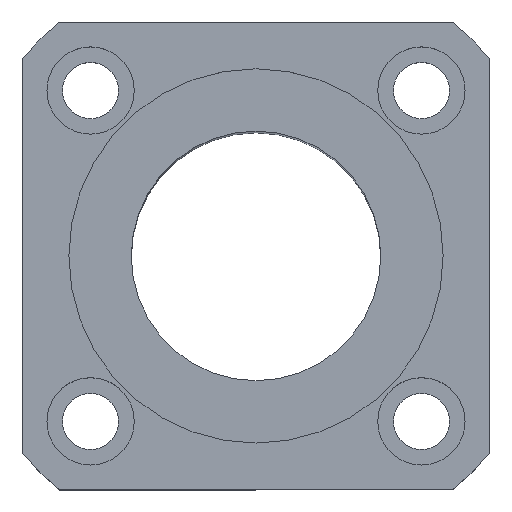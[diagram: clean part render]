
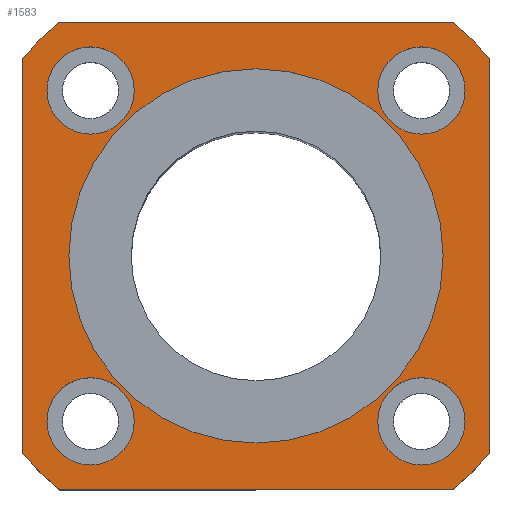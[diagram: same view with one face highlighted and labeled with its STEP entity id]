
A CAD part, top view. The second image highlights one B-rep face of the part: STEP entity #1583.
In plain terms, the highlighted planar face has unit normal (0, 0, 1).
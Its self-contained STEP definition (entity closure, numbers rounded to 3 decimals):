
#133=CARTESIAN_POINT('',(-30.0,0.,154.0));
#134=VERTEX_POINT('',#133);
#143=CARTESIAN_POINT('',(30.0,0.,154.0));
#144=VERTEX_POINT('',#143);
#145=CARTESIAN_POINT('',(0.0,0.0,154.0));
#146=DIRECTION('',(0.0,0.0,-1.0));
#147=DIRECTION('',(-1.0,0.0,0.0));
#148=AXIS2_PLACEMENT_3D('',#145,#146,#147);
#149=CIRCLE('',#148,30.0);
#150=EDGE_CURVE('',#144,#134,#149,.T.);
#303=CARTESIAN_POINT('',(-19.517,26.517,154.0));
#304=VERTEX_POINT('',#303);
#320=CARTESIAN_POINT('',(-33.517,26.517,154.0));
#321=VERTEX_POINT('',#320);
#328=CARTESIAN_POINT('',(-26.517,26.517,154.0));
#329=DIRECTION('',(0.0,0.0,-1.0));
#330=DIRECTION('',(1.0,0.0,0.0));
#331=AXIS2_PLACEMENT_3D('',#328,#329,#330);
#332=CIRCLE('',#331,7.);
#333=EDGE_CURVE('',#304,#321,#332,.T.);
#429=CARTESIAN_POINT('',(-26.517,-19.517,154.0));
#430=VERTEX_POINT('',#429);
#446=CARTESIAN_POINT('',(-26.517,-33.517,154.0));
#447=VERTEX_POINT('',#446);
#454=CARTESIAN_POINT('',(-26.517,-26.517,154.0));
#455=DIRECTION('',(0.0,0.0,-1.0));
#456=DIRECTION('',(0.0,1.0,0.0));
#457=AXIS2_PLACEMENT_3D('',#454,#455,#456);
#458=CIRCLE('',#457,7.);
#459=EDGE_CURVE('',#430,#447,#458,.T.);
#555=CARTESIAN_POINT('',(19.517,-26.517,154.0));
#556=VERTEX_POINT('',#555);
#572=CARTESIAN_POINT('',(33.517,-26.517,154.0));
#573=VERTEX_POINT('',#572);
#580=CARTESIAN_POINT('',(26.517,-26.517,154.0));
#581=DIRECTION('',(0.0,0.0,-1.0));
#582=DIRECTION('',(-1.0,0.0,0.0));
#583=AXIS2_PLACEMENT_3D('',#580,#581,#582);
#584=CIRCLE('',#583,7.);
#585=EDGE_CURVE('',#556,#573,#584,.T.);
#681=CARTESIAN_POINT('',(26.517,19.517,154.0));
#682=VERTEX_POINT('',#681);
#698=CARTESIAN_POINT('',(26.517,33.517,154.0));
#699=VERTEX_POINT('',#698);
#706=CARTESIAN_POINT('',(26.517,26.517,154.0));
#707=DIRECTION('',(0.0,0.0,-1.0));
#708=DIRECTION('',(0.0,-1.0,0.0));
#709=AXIS2_PLACEMENT_3D('',#706,#707,#708);
#710=CIRCLE('',#709,7.);
#711=EDGE_CURVE('',#682,#699,#710,.T.);
#769=CARTESIAN_POINT('',(26.517,26.517,154.0));
#770=DIRECTION('',(0.0,0.0,-1.0));
#771=DIRECTION('',(0.0,-1.0,0.0));
#772=AXIS2_PLACEMENT_3D('',#769,#770,#771);
#773=CIRCLE('',#772,7.);
#774=EDGE_CURVE('',#699,#682,#773,.T.);
#873=CARTESIAN_POINT('',(26.517,-26.517,154.0));
#874=DIRECTION('',(0.0,0.0,-1.0));
#875=DIRECTION('',(-1.0,0.0,0.0));
#876=AXIS2_PLACEMENT_3D('',#873,#874,#875);
#877=CIRCLE('',#876,7.);
#878=EDGE_CURVE('',#573,#556,#877,.T.);
#977=CARTESIAN_POINT('',(-26.517,-26.517,154.0));
#978=DIRECTION('',(0.0,0.0,-1.0));
#979=DIRECTION('',(0.0,1.0,0.0));
#980=AXIS2_PLACEMENT_3D('',#977,#978,#979);
#981=CIRCLE('',#980,7.);
#982=EDGE_CURVE('',#447,#430,#981,.T.);
#1081=CARTESIAN_POINT('',(-26.517,26.517,154.0));
#1082=DIRECTION('',(0.0,0.0,-1.0));
#1083=DIRECTION('',(1.0,0.0,0.0));
#1084=AXIS2_PLACEMENT_3D('',#1081,#1082,#1083);
#1085=CIRCLE('',#1084,7.);
#1086=EDGE_CURVE('',#321,#304,#1085,.T.);
#1147=CARTESIAN_POINT('',(-37.5,-31.54,154.0));
#1148=VERTEX_POINT('',#1147);
#1155=CARTESIAN_POINT('',(-37.5,31.54,154.0));
#1156=VERTEX_POINT('',#1155);
#1157=CARTESIAN_POINT('',(-37.5,31.54,154.0));
#1158=DIRECTION('',(0.0,-1.0,0.0));
#1159=VECTOR('',#1158,63.079);
#1160=LINE('',#1157,#1159);
#1161=EDGE_CURVE('',#1156,#1148,#1160,.T.);
#1186=CARTESIAN_POINT('',(-31.54,-37.5,154.0));
#1187=VERTEX_POINT('',#1186);
#1194=CARTESIAN_POINT('',(0.0,0.0,154.0));
#1195=DIRECTION('',(0.0,0.0,1.0));
#1196=DIRECTION('',(1.0,0.0,0.0));
#1197=AXIS2_PLACEMENT_3D('',#1194,#1195,#1196);
#1198=CIRCLE('',#1197,49.0);
#1199=EDGE_CURVE('',#1148,#1187,#1198,.T.);
#1218=CARTESIAN_POINT('',(31.54,-37.5,154.0));
#1219=VERTEX_POINT('',#1218);
#1226=CARTESIAN_POINT('',(-31.54,-37.5,154.0));
#1227=DIRECTION('',(1.0,0.0,0.0));
#1228=VECTOR('',#1227,63.079);
#1229=LINE('',#1226,#1228);
#1230=EDGE_CURVE('',#1187,#1219,#1229,.T.);
#1250=CARTESIAN_POINT('',(37.5,-31.54,154.0));
#1251=VERTEX_POINT('',#1250);
#1258=CARTESIAN_POINT('',(0.0,0.0,154.0));
#1259=DIRECTION('',(0.0,0.0,1.0));
#1260=DIRECTION('',(1.0,0.0,0.0));
#1261=AXIS2_PLACEMENT_3D('',#1258,#1259,#1260);
#1262=CIRCLE('',#1261,49.0);
#1263=EDGE_CURVE('',#1219,#1251,#1262,.T.);
#1282=CARTESIAN_POINT('',(37.5,31.54,154.0));
#1283=VERTEX_POINT('',#1282);
#1290=CARTESIAN_POINT('',(37.5,-31.54,154.0));
#1291=DIRECTION('',(0.0,1.0,0.0));
#1292=VECTOR('',#1291,63.079);
#1293=LINE('',#1290,#1292);
#1294=EDGE_CURVE('',#1251,#1283,#1293,.T.);
#1314=CARTESIAN_POINT('',(31.54,37.5,154.0));
#1315=VERTEX_POINT('',#1314);
#1322=CARTESIAN_POINT('',(0.0,0.0,154.0));
#1323=DIRECTION('',(0.0,0.0,1.0));
#1324=DIRECTION('',(1.0,0.0,0.0));
#1325=AXIS2_PLACEMENT_3D('',#1322,#1323,#1324);
#1326=CIRCLE('',#1325,49.0);
#1327=EDGE_CURVE('',#1283,#1315,#1326,.T.);
#1346=CARTESIAN_POINT('',(-31.54,37.5,154.0));
#1347=VERTEX_POINT('',#1346);
#1354=CARTESIAN_POINT('',(31.54,37.5,154.0));
#1355=DIRECTION('',(-1.0,0.0,0.0));
#1356=VECTOR('',#1355,63.079);
#1357=LINE('',#1354,#1356);
#1358=EDGE_CURVE('',#1315,#1347,#1357,.T.);
#1377=CARTESIAN_POINT('',(0.0,0.0,154.0));
#1378=DIRECTION('',(0.0,0.0,1.0));
#1379=DIRECTION('',(1.0,0.0,0.0));
#1380=AXIS2_PLACEMENT_3D('',#1377,#1378,#1379);
#1381=CIRCLE('',#1380,49.0);
#1382=EDGE_CURVE('',#1347,#1156,#1381,.T.);
#1502=CARTESIAN_POINT('',(0.0,0.0,154.0));
#1503=DIRECTION('',(0.0,0.0,-1.0));
#1504=DIRECTION('',(-1.0,0.0,0.0));
#1505=AXIS2_PLACEMENT_3D('',#1502,#1503,#1504);
#1506=CIRCLE('',#1505,30.0);
#1507=EDGE_CURVE('',#134,#144,#1506,.T.);
#1548=CARTESIAN_POINT('',(0.0,0.0,154.0));
#1549=DIRECTION('',(0.0,0.0,-1.0));
#1550=DIRECTION('',(-1.0,0.0,0.0));
#1551=AXIS2_PLACEMENT_3D('',#1548,#1549,#1550);
#1552=PLANE('',#1551);
#1553=ORIENTED_EDGE('',*,*,#1382,.T.);
#1554=ORIENTED_EDGE('',*,*,#1161,.T.);
#1555=ORIENTED_EDGE('',*,*,#1199,.T.);
#1556=ORIENTED_EDGE('',*,*,#1230,.T.);
#1557=ORIENTED_EDGE('',*,*,#1263,.T.);
#1558=ORIENTED_EDGE('',*,*,#1294,.T.);
#1559=ORIENTED_EDGE('',*,*,#1327,.T.);
#1560=ORIENTED_EDGE('',*,*,#1358,.T.);
#1561=EDGE_LOOP('',(#1553,#1554,#1555,#1556,#1557,#1558,#1559,#1560));
#1562=FACE_OUTER_BOUND('',#1561,.T.);
#1563=ORIENTED_EDGE('',*,*,#711,.T.);
#1564=ORIENTED_EDGE('',*,*,#774,.T.);
#1565=EDGE_LOOP('',(#1563,#1564));
#1566=FACE_BOUND('',#1565,.T.);
#1567=ORIENTED_EDGE('',*,*,#585,.T.);
#1568=ORIENTED_EDGE('',*,*,#878,.T.);
#1569=EDGE_LOOP('',(#1567,#1568));
#1570=FACE_BOUND('',#1569,.T.);
#1571=ORIENTED_EDGE('',*,*,#459,.T.);
#1572=ORIENTED_EDGE('',*,*,#982,.T.);
#1573=EDGE_LOOP('',(#1571,#1572));
#1574=FACE_BOUND('',#1573,.T.);
#1575=ORIENTED_EDGE('',*,*,#333,.T.);
#1576=ORIENTED_EDGE('',*,*,#1086,.T.);
#1577=EDGE_LOOP('',(#1575,#1576));
#1578=FACE_BOUND('',#1577,.T.);
#1579=ORIENTED_EDGE('',*,*,#150,.T.);
#1580=ORIENTED_EDGE('',*,*,#1507,.T.);
#1581=EDGE_LOOP('',(#1579,#1580));
#1582=FACE_BOUND('',#1581,.T.);
#1583=ADVANCED_FACE('',(#1562,#1566,#1570,#1574,#1578,#1582),#1552,.F.);
